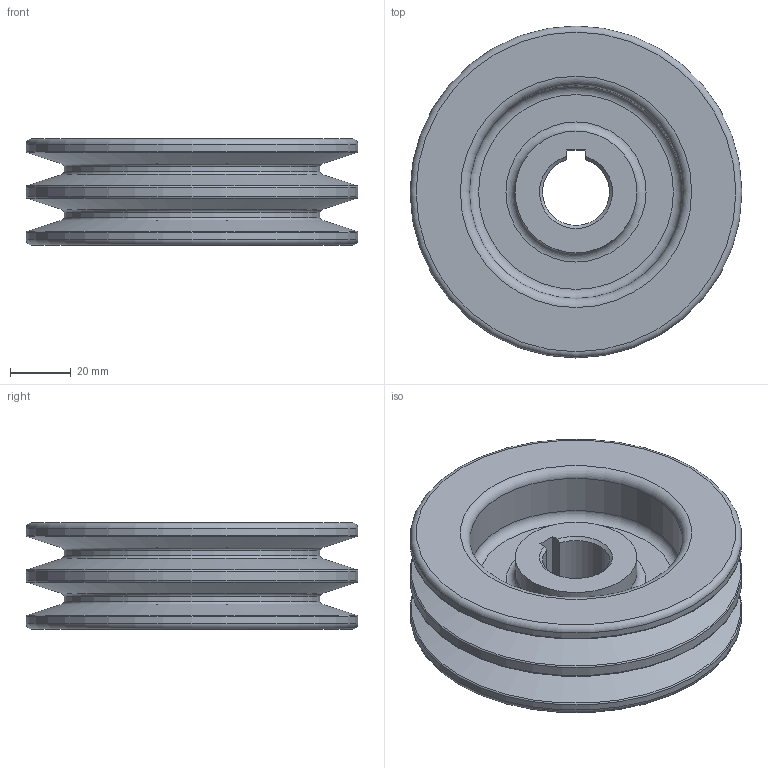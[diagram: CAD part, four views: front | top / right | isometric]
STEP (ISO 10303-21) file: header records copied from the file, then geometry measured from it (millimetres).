
FILE_DESCRIPTION(/* description */ (''),/* implementation_level */ '2;1');
FILE_NAME(/* name */ '',/* time_stamp */ '2026-07-01T11:14:37+09:00',/* author */ ('jhkim'),/* organization */ (''),/* preprocessor_version */ 'ST-DEVELOPER v20.1',/* originating_system */ 'Autodesk Inventor 2027',/* authorisation */ '');
FILE_SCHEMA (('AUTOMOTIVE_DESIGN { 1 0 10303 214 3 1 1 }'));
Length unit declared in the file: millimetre
Products named in the file (1): V-벨트풀리
Bounding box: 109 x 109 x 35 mm (x, y, z)
Volume: 184512 mm3; surface area: 46575.5 mm2
Topology: 1 solids, 1 shells, 40 faces, 101 edges, 67 vertices
Faces by surface type: torus 16, plane 9, cylinder 9, cone 6
Full cylindrical faces by diameter (mm): 40 x2, 70 x1, 84 x2, 109 x3
Entity records: 1295 total; most frequent: DIRECTION 254, CARTESIAN_POINT 217, ORIENTED_EDGE 202, AXIS2_PLACEMENT_3D 116, EDGE_CURVE 101, CIRCLE 75, VERTEX_POINT 67, EDGE_LOOP 46
